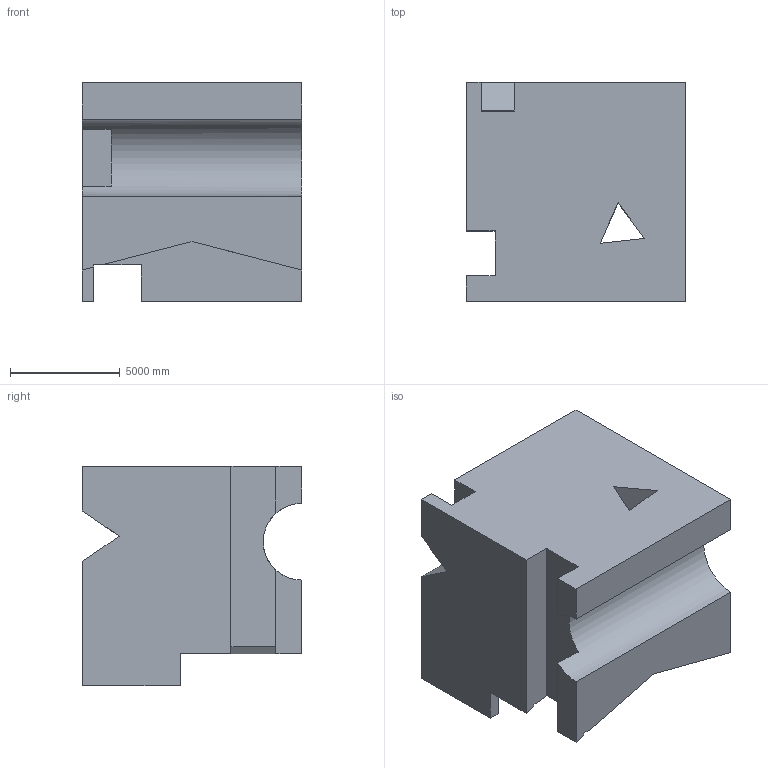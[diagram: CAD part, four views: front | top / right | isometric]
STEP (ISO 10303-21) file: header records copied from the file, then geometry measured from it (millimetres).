
FILE_DESCRIPTION (( 'STEP AP203' ), '1' );
FILE_NAME ('365.STEP', '2022-09-07T13:13:36', ( 'user' ), ( '' ), 'SwSTEP 2.0', 'SolidWorks 2021', '' );
FILE_SCHEMA (( 'CONFIG_CONTROL_DESIGN' ));
Length unit declared in the file: centimetre
Products named in the file (1): 365
Bounding box: 10000 x 10000 x 10000 mm (x, y, z)
Volume: 753569325027.5 mm3; surface area: 717190845.5 mm2
Topology: 1 solids, 1 shells, 45 faces, 129 edges, 86 vertices
Faces by surface type: plane 44, cylinder 1
Entity records: 1532 total; most frequent: CARTESIAN_POINT 261, ORIENTED_EDGE 258, DIRECTION 225, EDGE_CURVE 129, VECTOR 125, LINE 125, VERTEX_POINT 86, AXIS2_PLACEMENT_3D 50
